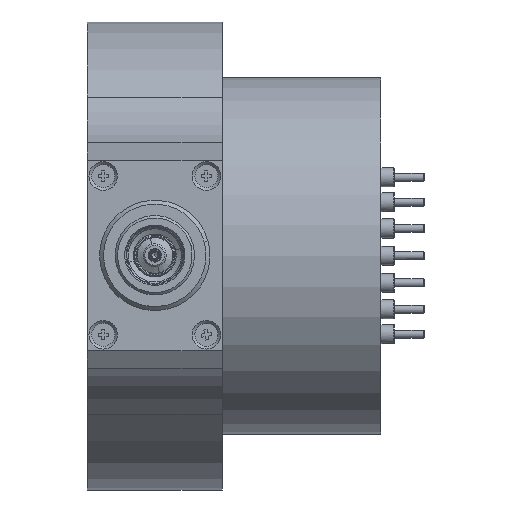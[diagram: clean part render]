
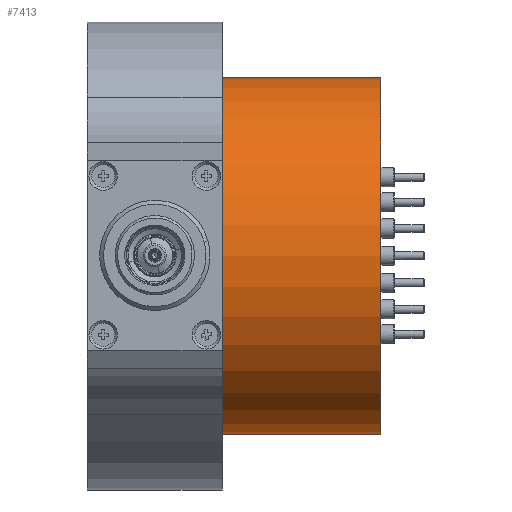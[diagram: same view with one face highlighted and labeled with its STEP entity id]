
A CAD part, top view. The second image highlights one B-rep face of the part: STEP entity #7413.
In plain terms, the highlighted cylindrical face has radius 22.5 mm (diameter 45 mm), a full revolution.
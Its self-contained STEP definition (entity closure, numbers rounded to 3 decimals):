
#295=B_SPLINE_CURVE_WITH_KNOTS('',3,(#16572,#16573,#16574,#16575,#16576,
#16577,#16578,#16579,#16580,#16581,#16582,#16583,#16584,#16585,#16586,#16587,
#16588,#16589,#16590),.UNSPECIFIED.,.F.,.F.,(4,2,2,2,3,2,2,2,4),(0.972,
1.054,1.135,1.216,1.297,1.378,
1.459,1.54,1.621),.UNSPECIFIED.);
#296=B_SPLINE_CURVE_WITH_KNOTS('',3,(#16591,#16592,#16593,#16594,#16595,
#16596,#16597,#16598,#16599,#16600,#16601,#16602,#16603,#16604,#16605,#16606,
#16607,#16608),.UNSPECIFIED.,.F.,.F.,(4,2,2,2,2,2,2,2,4),(0.324,
0.405,0.486,0.567,0.648,0.729,
0.81,0.891,0.972),.UNSPECIFIED.);
#297=B_SPLINE_CURVE_WITH_KNOTS('',3,(#16616,#16617,#16618,#16619,#16620,
#16621,#16622,#16623,#16624,#16625,#16626,#16627,#16628,#16629,#16630,#16631,
#16632,#16633),.UNSPECIFIED.,.F.,.F.,(4,2,2,2,2,2,2,2,4),(0.324,
0.405,0.486,0.567,0.648,0.729,
0.81,0.891,0.972),.UNSPECIFIED.);
#298=B_SPLINE_CURVE_WITH_KNOTS('',3,(#16634,#16635,#16636,#16637,#16638,
#16639,#16640,#16641,#16642,#16643,#16644,#16645,#16646,#16647,#16648,#16649,
#16650,#16651,#16652),.UNSPECIFIED.,.F.,.F.,(4,2,2,2,3,2,2,2,4),(0.972,
1.054,1.135,1.216,1.297,1.378,
1.459,1.54,1.621),.UNSPECIFIED.);
#492=FACE_BOUND('',#1500,.T.);
#493=FACE_BOUND('',#1501,.T.);
#494=FACE_BOUND('',#1502,.T.);
#938=FACE_OUTER_BOUND('',#1499,.T.);
#1499=EDGE_LOOP('',(#5648));
#1500=EDGE_LOOP('',(#5649,#5650));
#1501=EDGE_LOOP('',(#5651));
#1502=EDGE_LOOP('',(#5652,#5653));
#2962=CIRCLE('',#8104,22.5);
#2963=CIRCLE('',#8105,22.5);
#3481=VERTEX_POINT('',#16570);
#3482=VERTEX_POINT('',#16571);
#3483=VERTEX_POINT('',#16610);
#3484=VERTEX_POINT('',#16612);
#3485=VERTEX_POINT('',#16614);
#3486=VERTEX_POINT('',#16615);
#4281=EDGE_CURVE('',#3481,#3482,#295,.T.);
#4282=EDGE_CURVE('',#3482,#3481,#296,.T.);
#4283=EDGE_CURVE('',#3483,#3483,#2962,.T.);
#4284=EDGE_CURVE('',#3484,#3484,#2963,.T.);
#4285=EDGE_CURVE('',#3485,#3486,#297,.T.);
#4286=EDGE_CURVE('',#3486,#3485,#298,.T.);
#5648=ORIENTED_EDGE('',*,*,#4283,.T.);
#5649=ORIENTED_EDGE('',*,*,#4282,.T.);
#5650=ORIENTED_EDGE('',*,*,#4281,.T.);
#5651=ORIENTED_EDGE('',*,*,#4284,.T.);
#5652=ORIENTED_EDGE('',*,*,#4285,.T.);
#5653=ORIENTED_EDGE('',*,*,#4286,.T.);
#7120=CYLINDRICAL_SURFACE('',#8103,22.5);
#7413=ADVANCED_FACE('',(#938,#492,#493,#494),#7120,.T.);
#8103=AXIS2_PLACEMENT_3D('',#16609,#9539,#9540);
#8104=AXIS2_PLACEMENT_3D('',#16611,#9541,#9542);
#8105=AXIS2_PLACEMENT_3D('',#16613,#9543,#9544);
#9539=DIRECTION('center_axis',(-1.,0.,0.));
#9540=DIRECTION('ref_axis',(0.,0.,
1.));
#9541=DIRECTION('center_axis',(1.,0.,0.));
#9542=DIRECTION('ref_axis',(0.,0.,
1.));
#9543=DIRECTION('center_axis',(-1.,0.,0.));
#9544=DIRECTION('ref_axis',(0.,0.,
1.));
#16570=CARTESIAN_POINT('',(20.15,18.431,-12.905));
#16571=CARTESIAN_POINT('',(15.85,18.431,-12.905));
#16572=CARTESIAN_POINT('Ctrl Pts',(20.15,18.431,-12.905));
#16573=CARTESIAN_POINT('Ctrl Pts',(20.15,18.586,-12.684));
#16574=CARTESIAN_POINT('Ctrl Pts',(20.096,18.747,-12.445));
#16575=CARTESIAN_POINT('Ctrl Pts',(19.877,19.035,-12.));
#16576=CARTESIAN_POINT('Ctrl Pts',(19.711,19.162,-11.794));
#16577=CARTESIAN_POINT('Ctrl Pts',(19.329,19.36,-11.467));
#16578=CARTESIAN_POINT('Ctrl Pts',(19.088,19.443,-11.324));
#16579=CARTESIAN_POINT('Ctrl Pts',(18.558,19.553,-11.133));
#16580=CARTESIAN_POINT('Ctrl Pts',(18.27,19.58,-11.085));
#16581=CARTESIAN_POINT('Ctrl Pts',(18.,19.58,-11.085));
#16582=CARTESIAN_POINT('Ctrl Pts',(17.73,19.58,-11.085));
#16583=CARTESIAN_POINT('Ctrl Pts',(17.442,19.553,-11.133));
#16584=CARTESIAN_POINT('Ctrl Pts',(16.912,19.443,-11.324));
#16585=CARTESIAN_POINT('Ctrl Pts',(16.671,19.36,-11.467));
#16586=CARTESIAN_POINT('Ctrl Pts',(16.289,19.162,-11.794));
#16587=CARTESIAN_POINT('Ctrl Pts',(16.123,19.035,-12.));
#16588=CARTESIAN_POINT('Ctrl Pts',(15.904,18.747,-12.445));
#16589=CARTESIAN_POINT('Ctrl Pts',(15.85,18.586,-12.684));
#16590=CARTESIAN_POINT('Ctrl Pts',(15.85,18.431,-12.905));
#16591=CARTESIAN_POINT('Ctrl Pts',(15.85,18.431,-12.905));
#16592=CARTESIAN_POINT('Ctrl Pts',(15.85,18.276,-13.127));
#16593=CARTESIAN_POINT('Ctrl Pts',(15.904,18.106,-13.36));
#16594=CARTESIAN_POINT('Ctrl Pts',(16.123,17.787,-13.782));
#16595=CARTESIAN_POINT('Ctrl Pts',(16.289,17.637,-13.972));
#16596=CARTESIAN_POINT('Ctrl Pts',(16.671,17.397,-14.27));
#16597=CARTESIAN_POINT('Ctrl Pts',(16.912,17.291,-14.398));
#16598=CARTESIAN_POINT('Ctrl Pts',(17.442,17.149,-14.566));
#16599=CARTESIAN_POINT('Ctrl Pts',(17.73,17.113,-14.608));
#16600=CARTESIAN_POINT('Ctrl Pts',(18.27,17.113,-14.608));
#16601=CARTESIAN_POINT('Ctrl Pts',(18.558,17.149,-14.566));
#16602=CARTESIAN_POINT('Ctrl Pts',(19.088,17.291,-14.398));
#16603=CARTESIAN_POINT('Ctrl Pts',(19.329,17.397,-14.27));
#16604=CARTESIAN_POINT('Ctrl Pts',(19.711,17.637,-13.972));
#16605=CARTESIAN_POINT('Ctrl Pts',(19.877,17.787,-13.782));
#16606=CARTESIAN_POINT('Ctrl Pts',(20.096,18.106,-13.36));
#16607=CARTESIAN_POINT('Ctrl Pts',(20.15,18.276,-13.127));
#16608=CARTESIAN_POINT('Ctrl Pts',(20.15,18.431,-12.905));
#16609=CARTESIAN_POINT('Origin',(18.,0.,0.));
#16610=CARTESIAN_POINT('',(8.5,0.,-22.5));
#16611=CARTESIAN_POINT('Origin',(8.5,0.,
0.));
#16612=CARTESIAN_POINT('',(28.5,0.,22.5));
#16613=CARTESIAN_POINT('Origin',(28.5,0.,0.));
#16614=CARTESIAN_POINT('',(20.15,-18.431,-12.905));
#16615=CARTESIAN_POINT('',(15.85,-18.431,-12.905));
#16616=CARTESIAN_POINT('Ctrl Pts',(20.15,-18.431,-12.905));
#16617=CARTESIAN_POINT('Ctrl Pts',(20.15,-18.276,-13.127));
#16618=CARTESIAN_POINT('Ctrl Pts',(20.096,-18.106,-13.36));
#16619=CARTESIAN_POINT('Ctrl Pts',(19.877,-17.787,-13.782));
#16620=CARTESIAN_POINT('Ctrl Pts',(19.711,-17.637,-13.972));
#16621=CARTESIAN_POINT('Ctrl Pts',(19.329,-17.397,-14.27));
#16622=CARTESIAN_POINT('Ctrl Pts',(19.088,-17.291,-14.398));
#16623=CARTESIAN_POINT('Ctrl Pts',(18.558,-17.149,-14.566));
#16624=CARTESIAN_POINT('Ctrl Pts',(18.27,-17.113,-14.608));
#16625=CARTESIAN_POINT('Ctrl Pts',(17.73,-17.113,-14.608));
#16626=CARTESIAN_POINT('Ctrl Pts',(17.442,-17.149,-14.566));
#16627=CARTESIAN_POINT('Ctrl Pts',(16.912,-17.291,-14.398));
#16628=CARTESIAN_POINT('Ctrl Pts',(16.671,-17.397,-14.27));
#16629=CARTESIAN_POINT('Ctrl Pts',(16.289,-17.637,-13.972));
#16630=CARTESIAN_POINT('Ctrl Pts',(16.123,-17.787,-13.782));
#16631=CARTESIAN_POINT('Ctrl Pts',(15.904,-18.106,-13.36));
#16632=CARTESIAN_POINT('Ctrl Pts',(15.85,-18.276,-13.127));
#16633=CARTESIAN_POINT('Ctrl Pts',(15.85,-18.431,-12.905));
#16634=CARTESIAN_POINT('Ctrl Pts',(15.85,-18.431,-12.905));
#16635=CARTESIAN_POINT('Ctrl Pts',(15.85,-18.586,-12.684));
#16636=CARTESIAN_POINT('Ctrl Pts',(15.904,-18.747,-12.445));
#16637=CARTESIAN_POINT('Ctrl Pts',(16.123,-19.035,-12.));
#16638=CARTESIAN_POINT('Ctrl Pts',(16.289,-19.162,-11.794));
#16639=CARTESIAN_POINT('Ctrl Pts',(16.671,-19.36,-11.467));
#16640=CARTESIAN_POINT('Ctrl Pts',(16.912,-19.443,-11.324));
#16641=CARTESIAN_POINT('Ctrl Pts',(17.442,-19.553,-11.133));
#16642=CARTESIAN_POINT('Ctrl Pts',(17.73,-19.58,-11.085));
#16643=CARTESIAN_POINT('Ctrl Pts',(18.,-19.58,-11.085));
#16644=CARTESIAN_POINT('Ctrl Pts',(18.27,-19.58,-11.085));
#16645=CARTESIAN_POINT('Ctrl Pts',(18.558,-19.553,-11.133));
#16646=CARTESIAN_POINT('Ctrl Pts',(19.088,-19.443,-11.324));
#16647=CARTESIAN_POINT('Ctrl Pts',(19.329,-19.36,-11.467));
#16648=CARTESIAN_POINT('Ctrl Pts',(19.711,-19.162,-11.794));
#16649=CARTESIAN_POINT('Ctrl Pts',(19.877,-19.035,-12.));
#16650=CARTESIAN_POINT('Ctrl Pts',(20.096,-18.747,-12.445));
#16651=CARTESIAN_POINT('Ctrl Pts',(20.15,-18.586,-12.684));
#16652=CARTESIAN_POINT('Ctrl Pts',(20.15,-18.431,-12.905));
